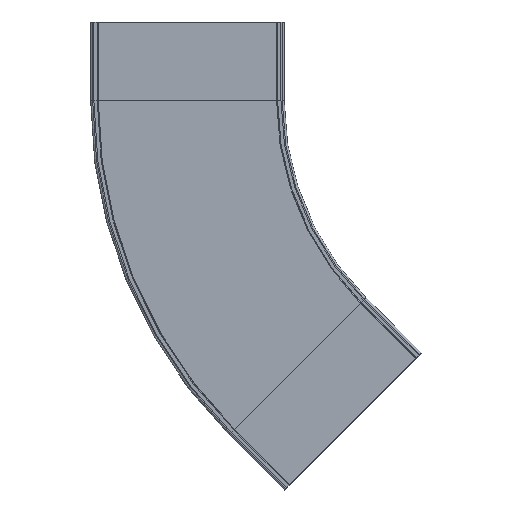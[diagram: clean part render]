
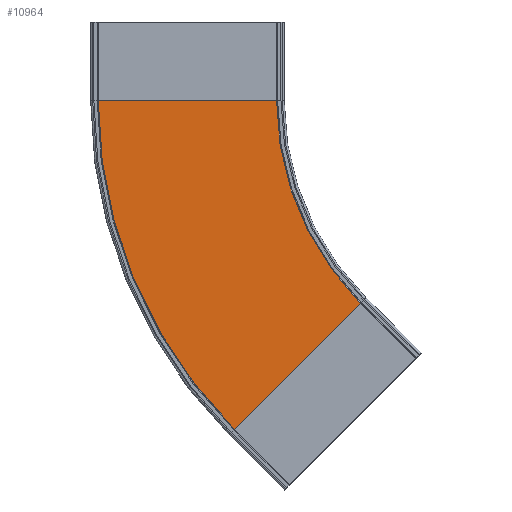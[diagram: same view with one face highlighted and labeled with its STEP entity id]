
A CAD part, front view. The second image highlights one B-rep face of the part: STEP entity #10964.
In plain terms, the highlighted planar face has unit normal (0, -1, 0).
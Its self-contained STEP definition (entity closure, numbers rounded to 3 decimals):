
#217 = CIRCLE ( 'NONE', #9480, 732.4 ) ;
#1964 = CARTESIAN_POINT ( 'NONE',  ( -227.6, -76.7, -200. ) ) ;
#2343 = VERTEX_POINT ( 'NONE', #1964 ) ;
#3126 = ORIENTED_EDGE ( 'NONE', *, *, #8135, .F. ) ;
#3599 = VECTOR ( 'NONE', #8324, 1000. ) ;
#3637 = DIRECTION ( 'NONE',  ( 0., 0., 1. ) ) ;
#3818 = ORIENTED_EDGE ( 'NONE', *, *, #9377, .T. ) ;
#4872 = EDGE_CURVE ( 'NONE', #8996, #15883, #5225, .T. ) ;
#5225 = LINE ( 'NONE', #9058, #15916 ) ;
#5396 = CARTESIAN_POINT ( 'NONE',  ( 442.115, -76.7, -717.885 ) ) ;
#5948 = DIRECTION ( 'NONE',  ( 0., 1., 0. ) ) ;
#6614 = EDGE_LOOP ( 'NONE', ( #3818, #3126, #7033, #6916 ) ) ;
#6916 = ORIENTED_EDGE ( 'NONE', *, *, #7695, .T. ) ;
#7033 = ORIENTED_EDGE ( 'NONE', *, *, #4872, .T. ) ;
#7108 = CIRCLE ( 'NONE', #15309, 1187.6 ) ;
#7695 = EDGE_CURVE ( 'NONE', #15883, #15385, #217, .T. ) ;
#8135 = EDGE_CURVE ( 'NONE', #8996, #2343, #7108, .T. ) ;
#8244 = DIRECTION ( 'NONE',  ( 0., 1., 0. ) ) ;
#8324 = DIRECTION ( 'NONE',  ( -1., 0., 0. ) ) ;
#8843 = CARTESIAN_POINT ( 'NONE',  ( 227.6, -76.7, -200. ) ) ;
#8996 = VERTEX_POINT ( 'NONE', #10911 ) ;
#9058 = CARTESIAN_POINT ( 'NONE',  ( 120.24, -76.7, -1039.76 ) ) ;
#9185 = PLANE ( 'NONE',  #9775 ) ;
#9377 = EDGE_CURVE ( 'NONE', #15385, #2343, #11018, .T. ) ;
#9480 = AXIS2_PLACEMENT_3D ( 'NONE', #16585, #8244, #17966 ) ;
#9775 = AXIS2_PLACEMENT_3D ( 'NONE', #11930, #11989, #3637 ) ;
#10398 = DIRECTION ( 'NONE',  ( 0.707, 0., 0.707 ) ) ;
#10911 = CARTESIAN_POINT ( 'NONE',  ( 120.24, -76.7, -1039.76 ) ) ;
#10964 = ADVANCED_FACE ( 'NONE', ( #13359 ), #9185, .F. ) ;
#11018 = LINE ( 'NONE', #13872, #3599 ) ;
#11930 = CARTESIAN_POINT ( 'NONE',  ( 120.24, -76.7, -1039.76 ) ) ;
#11989 = DIRECTION ( 'NONE',  ( 0., 1., 0. ) ) ;
#13359 = FACE_OUTER_BOUND ( 'NONE', #6614, .T. ) ;
#13872 = CARTESIAN_POINT ( 'NONE',  ( 0., -76.7, -200. ) ) ;
#14306 = CARTESIAN_POINT ( 'NONE',  ( 960., -76.7, -200. ) ) ;
#15309 = AXIS2_PLACEMENT_3D ( 'NONE', #14306, #5948, #15704 ) ;
#15385 = VERTEX_POINT ( 'NONE', #8843 ) ;
#15704 = DIRECTION ( 'NONE',  ( 0., 0., 1. ) ) ;
#15883 = VERTEX_POINT ( 'NONE', #5396 ) ;
#15916 = VECTOR ( 'NONE', #10398, 1000. ) ;
#16585 = CARTESIAN_POINT ( 'NONE',  ( 960., -76.7, -200. ) ) ;
#17966 = DIRECTION ( 'NONE',  ( 0., 0., 1. ) ) ;
